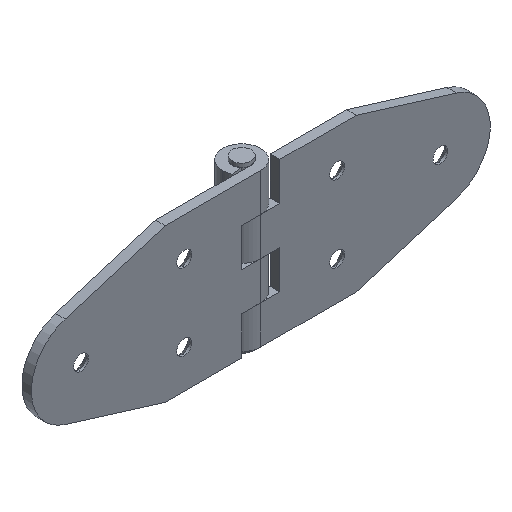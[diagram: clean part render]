
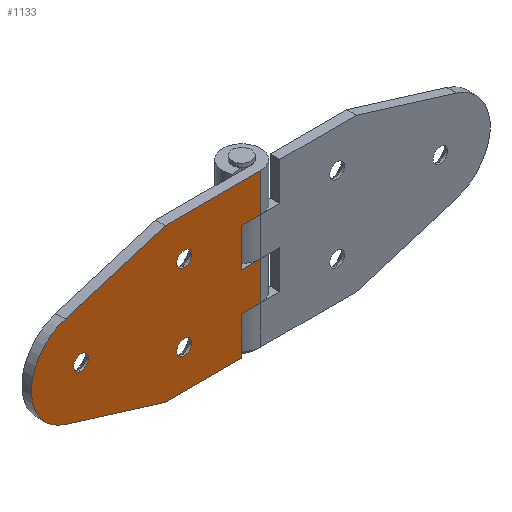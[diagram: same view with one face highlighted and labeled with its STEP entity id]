
A CAD part, isometric view. The second image highlights one B-rep face of the part: STEP entity #1133.
In plain terms, the highlighted planar face has unit normal (0, -1, 0).
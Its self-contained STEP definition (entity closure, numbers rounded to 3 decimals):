
#5 = EDGE_CURVE ( 'NONE', #1486, #621, #352, .T. ) ;
#12 = VECTOR ( 'NONE', #852, 1000. ) ;
#32 = CIRCLE ( 'NONE', #1160, 1.95 ) ;
#36 = VERTEX_POINT ( 'NONE', #327 ) ;
#46 = CARTESIAN_POINT ( 'NONE',  ( -47.5, 0.869, 0. ) ) ;
#62 = EDGE_CURVE ( 'NONE', #1005, #555, #188, .T. ) ;
#78 = ORIENTED_EDGE ( 'NONE', *, *, #994, .T. ) ;
#86 = DIRECTION ( 'NONE',  ( 0., 0., -1. ) ) ;
#97 = EDGE_CURVE ( 'NONE', #1716, #1407, #1181, .T. ) ;
#106 = ORIENTED_EDGE ( 'NONE', *, *, #411, .T. ) ;
#128 = VERTEX_POINT ( 'NONE', #895 ) ;
#150 = CARTESIAN_POINT ( 'NONE',  ( -5., 0.869, -10. ) ) ;
#154 = CIRCLE ( 'NONE', #876, 1.95 ) ;
#165 = VECTOR ( 'NONE', #193, 1000. ) ;
#167 = CARTESIAN_POINT ( 'NONE',  ( -51.175, 0.869, -11.947 ) ) ;
#188 = LINE ( 'NONE', #748, #1788 ) ;
#193 = DIRECTION ( 'NONE',  ( 0., 0., 1. ) ) ;
#203 = ORIENTED_EDGE ( 'NONE', *, *, #388, .T. ) ;
#205 = FACE_OUTER_BOUND ( 'NONE', #544, .T. ) ;
#209 = CARTESIAN_POINT ( 'NONE',  ( -51.175, 0.869, 11.947 ) ) ;
#226 = DIRECTION ( 'NONE',  ( 0., 1., 0. ) ) ;
#233 = LINE ( 'NONE', #1387, #766 ) ;
#254 = DIRECTION ( 'NONE',  ( 1., 0., 0. ) ) ;
#263 = DIRECTION ( 'NONE',  ( 0., 1., 0. ) ) ;
#290 = AXIS2_PLACEMENT_3D ( 'NONE', #731, #263, #977 ) ;
#295 = CARTESIAN_POINT ( 'NONE',  ( -20., 0.869, -10. ) ) ;
#305 = CARTESIAN_POINT ( 'NONE',  ( -60., 0.869, -10. ) ) ;
#327 = CARTESIAN_POINT ( 'NONE',  ( -25., 0.869, -20. ) ) ;
#334 = ORIENTED_EDGE ( 'NONE', *, *, #349, .T. ) ;
#345 = CIRCLE ( 'NONE', #290, 1.95 ) ;
#349 = EDGE_CURVE ( 'NONE', #1005, #1716, #861, .T. ) ;
#352 = CIRCLE ( 'NONE', #1458, 1.95 ) ;
#388 = EDGE_CURVE ( 'NONE', #621, #1486, #32, .T. ) ;
#408 = ORIENTED_EDGE ( 'NONE', *, *, #885, .F. ) ;
#411 = EDGE_CURVE ( 'NONE', #1672, #1620, #345, .T. ) ;
#431 = CARTESIAN_POINT ( 'NONE',  ( 0., 0.869, 0. ) ) ;
#451 = CARTESIAN_POINT ( 'NONE',  ( -20., 0.869, -11.95 ) ) ;
#454 = CARTESIAN_POINT ( 'NONE',  ( -47., 0.869, 1.95 ) ) ;
#480 = CARTESIAN_POINT ( 'NONE',  ( -47., 0.869, 0. ) ) ;
#498 = EDGE_CURVE ( 'NONE', #1793, #944, #676, .T. ) ;
#505 = PLANE ( 'NONE',  #1306 ) ;
#507 = ORIENTED_EDGE ( 'NONE', *, *, #1764, .T. ) ;
#523 = ORIENTED_EDGE ( 'NONE', *, *, #1465, .T. ) ;
#536 = DIRECTION ( 'NONE',  ( -0.956, 0., 0.294 ) ) ;
#541 = ORIENTED_EDGE ( 'NONE', *, *, #498, .T. ) ;
#544 = EDGE_LOOP ( 'NONE', ( #1413, #507, #1131, #1192, #334, #1789, #1753, #794, #408, #1691, #541, #1836 ) ) ;
#551 = CARTESIAN_POINT ( 'NONE',  ( -47., 0.869, 0. ) ) ;
#555 = VERTEX_POINT ( 'NONE', #782 ) ;
#579 = LINE ( 'NONE', #1009, #1667 ) ;
#580 = CARTESIAN_POINT ( 'NONE',  ( -60., 0.869, 0. ) ) ;
#585 = VECTOR ( 'NONE', #254, 1000. ) ;
#618 = CARTESIAN_POINT ( 'NONE',  ( -20., 0.869, -8.05 ) ) ;
#621 = VERTEX_POINT ( 'NONE', #1827 ) ;
#660 = VERTEX_POINT ( 'NONE', #975 ) ;
#670 = LINE ( 'NONE', #1221, #1864 ) ;
#676 = CIRCLE ( 'NONE', #1618, 12.5 ) ;
#688 = CARTESIAN_POINT ( 'NONE',  ( -20., 0.869, 10. ) ) ;
#690 = CARTESIAN_POINT ( 'NONE',  ( -60., 0.869, 10. ) ) ;
#707 = VERTEX_POINT ( 'NONE', #837 ) ;
#726 = EDGE_CURVE ( 'NONE', #834, #128, #1565, .T. ) ;
#731 = CARTESIAN_POINT ( 'NONE',  ( -20., 0.869, -10. ) ) ;
#737 = CARTESIAN_POINT ( 'NONE',  ( -5., 0.869, 0. ) ) ;
#748 = CARTESIAN_POINT ( 'NONE',  ( 0., 0.869, 20. ) ) ;
#751 = DIRECTION ( 'NONE',  ( 0., 0., -1. ) ) ;
#754 = AXIS2_PLACEMENT_3D ( 'NONE', #688, #954, #1664 ) ;
#758 = LINE ( 'NONE', #1754, #1049 ) ;
#766 = VECTOR ( 'NONE', #86, 1000. ) ;
#775 = EDGE_CURVE ( 'NONE', #1046, #660, #233, .T. ) ;
#780 = DIRECTION ( 'NONE',  ( 0., 0., 1. ) ) ;
#782 = CARTESIAN_POINT ( 'NONE',  ( 0., 0.869, -10. ) ) ;
#786 = FACE_BOUND ( 'NONE', #1686, .T. ) ;
#794 = ORIENTED_EDGE ( 'NONE', *, *, #775, .F. ) ;
#811 = CARTESIAN_POINT ( 'NONE',  ( 0., 0.869, 20. ) ) ;
#832 = EDGE_CURVE ( 'NONE', #1778, #1793, #579, .T. ) ;
#834 = VERTEX_POINT ( 'NONE', #1723 ) ;
#837 = CARTESIAN_POINT ( 'NONE',  ( -5., 0.869, -20. ) ) ;
#851 = CIRCLE ( 'NONE', #1743, 1.95 ) ;
#852 = DIRECTION ( 'NONE',  ( -1., 0., 0. ) ) ;
#861 = LINE ( 'NONE', #580, #12 ) ;
#876 = AXIS2_PLACEMENT_3D ( 'NONE', #295, #1002, #1316 ) ;
#885 = EDGE_CURVE ( 'NONE', #1778, #1046, #1170, .T. ) ;
#889 = DIRECTION ( 'NONE',  ( 1., 0., 0. ) ) ;
#895 = CARTESIAN_POINT ( 'NONE',  ( -20., 0.869, 8.05 ) ) ;
#944 = VERTEX_POINT ( 'NONE', #167 ) ;
#954 = DIRECTION ( 'NONE',  ( 0., 1., 0. ) ) ;
#975 = CARTESIAN_POINT ( 'NONE',  ( 0., 0.869, 10. ) ) ;
#977 = DIRECTION ( 'NONE',  ( 0., 0., 1. ) ) ;
#994 = EDGE_CURVE ( 'NONE', #1620, #1672, #154, .T. ) ;
#1002 = DIRECTION ( 'NONE',  ( 0., 1., 0. ) ) ;
#1005 = VERTEX_POINT ( 'NONE', #431 ) ;
#1009 = CARTESIAN_POINT ( 'NONE',  ( -25., 0.869, 20. ) ) ;
#1016 = DIRECTION ( 'NONE',  ( 0., 1., 0. ) ) ;
#1028 = ORIENTED_EDGE ( 'NONE', *, *, #5, .T. ) ;
#1046 = VERTEX_POINT ( 'NONE', #811 ) ;
#1049 = VECTOR ( 'NONE', #780, 1000. ) ;
#1074 = DIRECTION ( 'NONE',  ( 0., 0., 1. ) ) ;
#1078 = CARTESIAN_POINT ( 'NONE',  ( -25., 0.869, 20. ) ) ;
#1110 = EDGE_CURVE ( 'NONE', #36, #944, #670, .T. ) ;
#1131 = ORIENTED_EDGE ( 'NONE', *, *, #1411, .T. ) ;
#1133 = ADVANCED_FACE ( 'NONE', ( #1392, #786, #1498, #205 ), #505, .F. ) ;
#1160 = AXIS2_PLACEMENT_3D ( 'NONE', #551, #1865, #1441 ) ;
#1170 = LINE ( 'NONE', #1323, #1255 ) ;
#1181 = LINE ( 'NONE', #1762, #165 ) ;
#1192 = ORIENTED_EDGE ( 'NONE', *, *, #62, .F. ) ;
#1221 = CARTESIAN_POINT ( 'NONE',  ( -25., 0.869, -20. ) ) ;
#1247 = EDGE_CURVE ( 'NONE', #36, #707, #1560, .T. ) ;
#1255 = VECTOR ( 'NONE', #889, 1000. ) ;
#1279 = LINE ( 'NONE', #690, #1832 ) ;
#1306 = AXIS2_PLACEMENT_3D ( 'NONE', #1806, #226, #1074 ) ;
#1312 = CARTESIAN_POINT ( 'NONE',  ( -20., 0.869, 10. ) ) ;
#1313 = EDGE_CURVE ( 'NONE', #1407, #660, #1279, .T. ) ;
#1316 = DIRECTION ( 'NONE',  ( 0., 0., 1. ) ) ;
#1323 = CARTESIAN_POINT ( 'NONE',  ( -60., 0.869, 20. ) ) ;
#1334 = DIRECTION ( 'NONE',  ( 0., 0., 1. ) ) ;
#1343 = DIRECTION ( 'NONE',  ( 0., 0., -1. ) ) ;
#1352 = DIRECTION ( 'NONE',  ( 0., 1., 0. ) ) ;
#1374 = EDGE_LOOP ( 'NONE', ( #1845, #523 ) ) ;
#1375 = VERTEX_POINT ( 'NONE', #150 ) ;
#1387 = CARTESIAN_POINT ( 'NONE',  ( 0., 0.869, 20. ) ) ;
#1392 = FACE_BOUND ( 'NONE', #1846, .T. ) ;
#1407 = VERTEX_POINT ( 'NONE', #1609 ) ;
#1411 = EDGE_CURVE ( 'NONE', #1375, #555, #1737, .T. ) ;
#1413 = ORIENTED_EDGE ( 'NONE', *, *, #1247, .T. ) ;
#1427 = DIRECTION ( 'NONE',  ( -0.956, 0., -0.294 ) ) ;
#1441 = DIRECTION ( 'NONE',  ( 0., 0., 1. ) ) ;
#1458 = AXIS2_PLACEMENT_3D ( 'NONE', #480, #1352, #1334 ) ;
#1465 = EDGE_CURVE ( 'NONE', #128, #834, #851, .T. ) ;
#1486 = VERTEX_POINT ( 'NONE', #454 ) ;
#1498 = FACE_BOUND ( 'NONE', #1374, .T. ) ;
#1506 = VECTOR ( 'NONE', #1622, 1000. ) ;
#1560 = LINE ( 'NONE', #1584, #585 ) ;
#1565 = CIRCLE ( 'NONE', #754, 1.95 ) ;
#1584 = CARTESIAN_POINT ( 'NONE',  ( -60., 0.869, -20. ) ) ;
#1609 = CARTESIAN_POINT ( 'NONE',  ( -5., 0.869, 10. ) ) ;
#1618 = AXIS2_PLACEMENT_3D ( 'NONE', #46, #1791, #751 ) ;
#1620 = VERTEX_POINT ( 'NONE', #451 ) ;
#1622 = DIRECTION ( 'NONE',  ( 1., 0., 0. ) ) ;
#1664 = DIRECTION ( 'NONE',  ( 0., 0., 1. ) ) ;
#1667 = VECTOR ( 'NONE', #1427, 1000. ) ;
#1672 = VERTEX_POINT ( 'NONE', #618 ) ;
#1686 = EDGE_LOOP ( 'NONE', ( #106, #78 ) ) ;
#1691 = ORIENTED_EDGE ( 'NONE', *, *, #832, .T. ) ;
#1716 = VERTEX_POINT ( 'NONE', #737 ) ;
#1723 = CARTESIAN_POINT ( 'NONE',  ( -20., 0.869, 11.95 ) ) ;
#1733 = DIRECTION ( 'NONE',  ( 0., 0., 1. ) ) ;
#1737 = LINE ( 'NONE', #305, #1506 ) ;
#1743 = AXIS2_PLACEMENT_3D ( 'NONE', #1312, #1016, #1733 ) ;
#1753 = ORIENTED_EDGE ( 'NONE', *, *, #1313, .T. ) ;
#1754 = CARTESIAN_POINT ( 'NONE',  ( -5., 0.869, 20. ) ) ;
#1762 = CARTESIAN_POINT ( 'NONE',  ( -5., 0.869, 20. ) ) ;
#1764 = EDGE_CURVE ( 'NONE', #707, #1375, #758, .T. ) ;
#1778 = VERTEX_POINT ( 'NONE', #1078 ) ;
#1788 = VECTOR ( 'NONE', #1343, 1000. ) ;
#1789 = ORIENTED_EDGE ( 'NONE', *, *, #97, .T. ) ;
#1791 = DIRECTION ( 'NONE',  ( 0., -1., 0. ) ) ;
#1793 = VERTEX_POINT ( 'NONE', #209 ) ;
#1806 = CARTESIAN_POINT ( 'NONE',  ( -60., 0.869, 20. ) ) ;
#1827 = CARTESIAN_POINT ( 'NONE',  ( -47., 0.869, -1.95 ) ) ;
#1832 = VECTOR ( 'NONE', #1842, 1000. ) ;
#1836 = ORIENTED_EDGE ( 'NONE', *, *, #1110, .F. ) ;
#1842 = DIRECTION ( 'NONE',  ( 1., 0., 0. ) ) ;
#1845 = ORIENTED_EDGE ( 'NONE', *, *, #726, .T. ) ;
#1846 = EDGE_LOOP ( 'NONE', ( #1028, #203 ) ) ;
#1864 = VECTOR ( 'NONE', #536, 1000. ) ;
#1865 = DIRECTION ( 'NONE',  ( 0., 1., 0. ) ) ;
